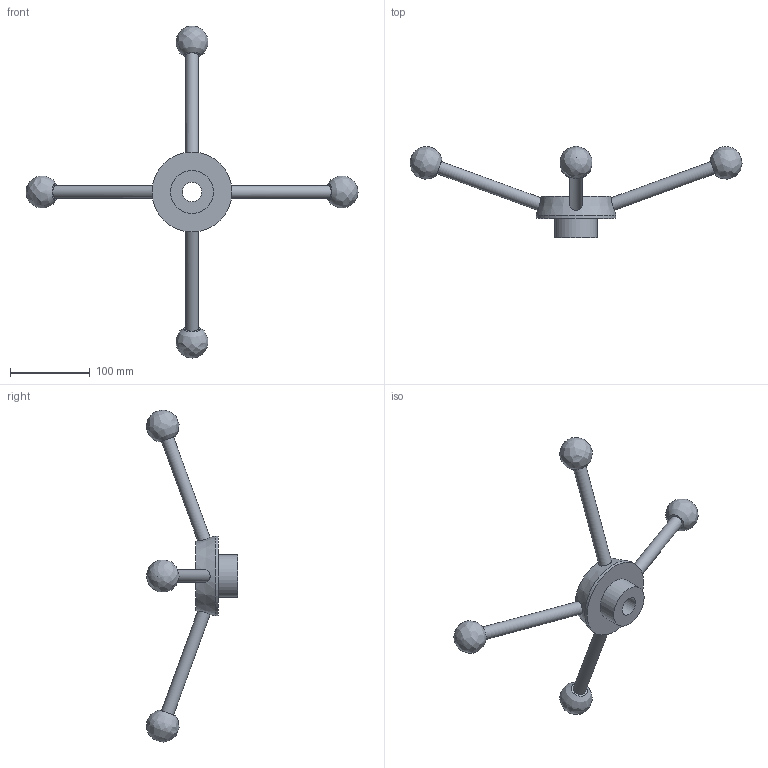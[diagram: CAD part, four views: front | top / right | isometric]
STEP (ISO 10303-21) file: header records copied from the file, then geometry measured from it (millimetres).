
FILE_DESCRIPTION( ( 'STEP AP203' ), '1' );
FILE_NAME( 'C:/Temp/Ganter_Step_05_03_2020/data/2_1/gn_213/gn_213_b/Turret lever GN 213-100-B24.stp', '2020-03-05T11:51:04', ( 'License CC BY-ND 4.0' ), ( 'CADENAS' ), ' ', 'PARTsolutions', ' ' );
FILE_SCHEMA( ( 'CONFIG_CONTROL_DESIGN' ) );
Length unit declared in the file: millimetre
Products named in the file (1): _Turret lever GN 213-100-B24
Bounding box: 415.3 x 113.97 x 415.3 mm (x, y, z)
Volume: 473792.7 mm3; surface area: 75383.2 mm2
Topology: 1 solids, 1 shells, 19 faces, 42 edges, 29 vertices
Faces by surface type: cylinder 7, plane 7, bspline 4, cone 1
Full cylindrical faces by diameter (mm): 16 x4, 24 x1, 54 x1, 100 x1
Entity records: 880 total; most frequent: CARTESIAN_POINT 522, DIRECTION 62, EDGE_LOOP 38, ORIENTED_EDGE 38, AXIS2_PLACEMENT_3D 31, FACE_OUTER_BOUND 26, VERTEX_POINT 23, ADVANCED_FACE 19
